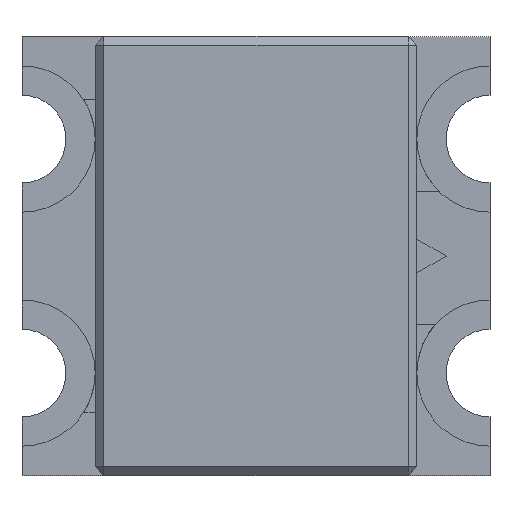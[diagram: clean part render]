
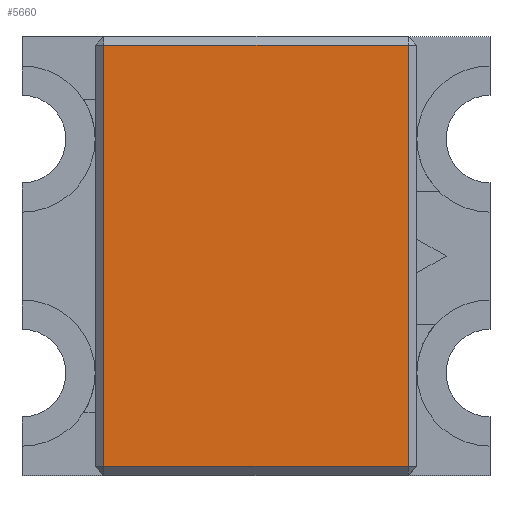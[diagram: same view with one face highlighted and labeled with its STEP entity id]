
A CAD part, top view. The second image highlights one B-rep face of the part: STEP entity #5660.
In plain terms, the highlighted planar face has unit normal (0, 0, 1).
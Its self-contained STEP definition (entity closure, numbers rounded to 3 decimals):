
#1074 = EDGE_CURVE ( 'NONE', #18424, #15693, #16566, .T. ) ;
#2408 = CARTESIAN_POINT ( 'NONE',  ( 0.52, -0.375, 0.55 ) ) ;
#2510 = VERTEX_POINT ( 'NONE', #18134 ) ;
#2806 = LINE ( 'NONE', #19371, #9375 ) ;
#3731 = PLANE ( 'NONE',  #19684 ) ;
#5058 = DIRECTION ( 'NONE',  ( 0., 0., 1. ) ) ;
#5658 = CARTESIAN_POINT ( 'NONE',  ( 0.52, 0.72, 0.55 ) ) ;
#5660 = ADVANCED_FACE ( 'NONE', ( #6716 ), #3731, .T. ) ;
#6716 = FACE_OUTER_BOUND ( 'NONE', #9241, .T. ) ;
#7508 = EDGE_CURVE ( 'NONE', #15693, #2510, #15998, .T. ) ;
#8666 = ORIENTED_EDGE ( 'NONE', *, *, #7508, .F. ) ;
#8695 = ORIENTED_EDGE ( 'NONE', *, *, #21114, .F. ) ;
#9241 = EDGE_LOOP ( 'NONE', ( #18511, #8695, #8666, #11371 ) ) ;
#9375 = VECTOR ( 'NONE', #12637, 1000. ) ;
#9950 = CARTESIAN_POINT ( 'NONE',  ( 0.275, 0.72, 0.55 ) ) ;
#10477 = CARTESIAN_POINT ( 'NONE',  ( 0., 0., 0.55 ) ) ;
#10836 = VERTEX_POINT ( 'NONE', #16295 ) ;
#11371 = ORIENTED_EDGE ( 'NONE', *, *, #1074, .F. ) ;
#12242 = DIRECTION ( 'NONE',  ( 0., -1., 0. ) ) ;
#12307 = VECTOR ( 'NONE', #17010, 1000. ) ;
#12637 = DIRECTION ( 'NONE',  ( -1., 0., 0. ) ) ;
#13082 = LINE ( 'NONE', #17951, #16666 ) ;
#13558 = DIRECTION ( 'NONE',  ( 1., 0., 0. ) ) ;
#14528 = DIRECTION ( 'NONE',  ( 0., 1., 0. ) ) ;
#15693 = VERTEX_POINT ( 'NONE', #5658 ) ;
#15998 = LINE ( 'NONE', #2408, #17290 ) ;
#16295 = CARTESIAN_POINT ( 'NONE',  ( -0.52, -0.72, 0.55 ) ) ;
#16566 = LINE ( 'NONE', #9950, #12307 ) ;
#16666 = VECTOR ( 'NONE', #14528, 1000. ) ;
#17010 = DIRECTION ( 'NONE',  ( 1., 0., 0. ) ) ;
#17290 = VECTOR ( 'NONE', #12242, 1000. ) ;
#17308 = EDGE_CURVE ( 'NONE', #10836, #18424, #13082, .T. ) ;
#17420 = CARTESIAN_POINT ( 'NONE',  ( -0.52, 0.72, 0.55 ) ) ;
#17951 = CARTESIAN_POINT ( 'NONE',  ( -0.52, 0.375, 0.55 ) ) ;
#18134 = CARTESIAN_POINT ( 'NONE',  ( 0.52, -0.72, 0.55 ) ) ;
#18424 = VERTEX_POINT ( 'NONE', #17420 ) ;
#18511 = ORIENTED_EDGE ( 'NONE', *, *, #17308, .F. ) ;
#19371 = CARTESIAN_POINT ( 'NONE',  ( -0.275, -0.72, 0.55 ) ) ;
#19684 = AXIS2_PLACEMENT_3D ( 'NONE', #10477, #5058, #13558 ) ;
#21114 = EDGE_CURVE ( 'NONE', #2510, #10836, #2806, .T. ) ;
